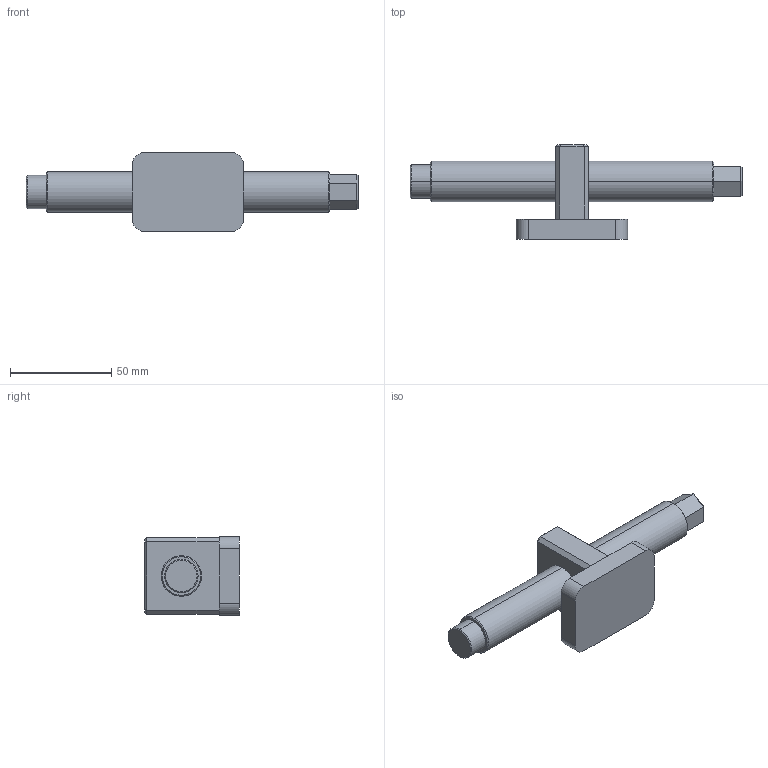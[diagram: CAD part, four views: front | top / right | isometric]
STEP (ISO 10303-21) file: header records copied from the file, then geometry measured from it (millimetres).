
FILE_DESCRIPTION (( 'STEP AP214' ), '1' );
FILE_NAME ('4825164.STEP', '2025-03-20T12:08:07', ( '' ), ( '' ), 'SwSTEP 2.0', 'SolidWorks 2021', '' );
FILE_SCHEMA (( 'AUTOMOTIVE_DESIGN' ));
Length unit declared in the file: millimetre
Products named in the file (1): 4825164
Bounding box: 164 x 46.85 x 39 mm (x, y, z)
Volume: 86688.8 mm3; surface area: 18956.6 mm2
Topology: 1 solids, 1 shells, 68 faces, 154 edges, 94 vertices
Faces by surface type: plane 52, cylinder 10, cone 6
Entity records: 2341 total; most frequent: DIRECTION 318, CARTESIAN_POINT 317, ORIENTED_EDGE 308, EDGE_CURVE 154, VECTOR 128, LINE 128, AXIS2_PLACEMENT_3D 95, VERTEX_POINT 94
